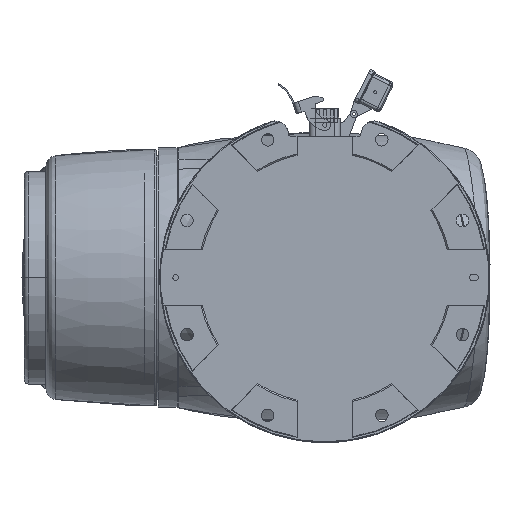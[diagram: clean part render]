
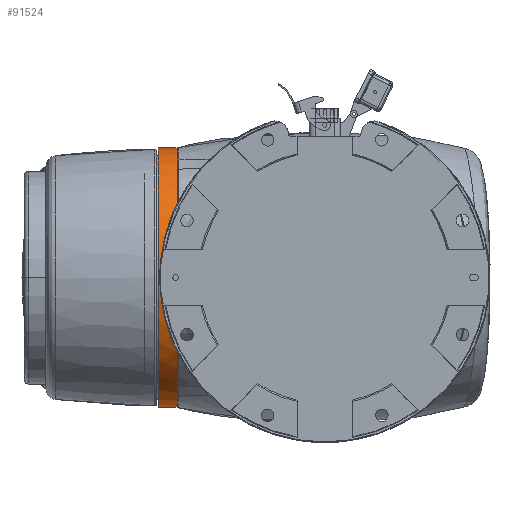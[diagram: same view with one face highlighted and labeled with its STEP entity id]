
A CAD part, front view. The second image highlights one B-rep face of the part: STEP entity #91524.
In plain terms, the highlighted cylindrical face has radius 93.5 mm (diameter 187 mm), a partial arc.
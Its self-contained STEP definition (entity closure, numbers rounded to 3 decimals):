
#3895 = EDGE_CURVE ( 'NONE', #348042, #332311, #331304, .T. ) ;
#10882 = DIRECTION ( 'NONE',  ( 0., 0., 1. ) ) ;
#12852 = CARTESIAN_POINT ( 'NONE',  ( -106.5, 0., 0. ) ) ;
#15277 = CARTESIAN_POINT ( 'NONE',  ( -106.5, 0., -93.5 ) ) ;
#24721 = ORIENTED_EDGE ( 'NONE', *, *, #67844, .F. ) ;
#51750 = CARTESIAN_POINT ( 'NONE',  ( -130., 0., 93.5 ) ) ;
#57913 = DIRECTION ( 'NONE',  ( 0., 0., 1. ) ) ;
#61537 = ORIENTED_EDGE ( 'NONE', *, *, #238762, .T. ) ;
#67844 = EDGE_CURVE ( 'NONE', #133919, #332311, #169883, .T. ) ;
#75805 = AXIS2_PLACEMENT_3D ( 'NONE', #252215, #250189, #191017 ) ;
#86830 = CYLINDRICAL_SURFACE ( 'NONE', #230422, 93.5 ) ;
#88539 = CARTESIAN_POINT ( 'NONE',  ( -106.5, 0., 0. ) ) ;
#91524 = ADVANCED_FACE ( 'NONE', ( #148068 ), #86830, .T. ) ;
#100315 = CARTESIAN_POINT ( 'NONE',  ( -120., 0., -93.5 ) ) ;
#105668 = EDGE_LOOP ( 'NONE', ( #193390, #235346, #107258, #61537, #331404, #24721 ) ) ;
#107258 = ORIENTED_EDGE ( 'NONE', *, *, #302350, .T. ) ;
#109583 = CARTESIAN_POINT ( 'NONE',  ( -130., 0., -93.5 ) ) ;
#113631 = LINE ( 'NONE', #109583, #311046 ) ;
#116080 = CARTESIAN_POINT ( 'NONE',  ( -106.5, -89.564, 26.841 ) ) ;
#127159 = AXIS2_PLACEMENT_3D ( 'NONE', #12852, #204518, #265743 ) ;
#133919 = VERTEX_POINT ( 'NONE', #100315 ) ;
#142842 = CARTESIAN_POINT ( 'NONE',  ( -120., 0., 93.5 ) ) ;
#148068 = FACE_OUTER_BOUND ( 'NONE', #105668, .T. ) ;
#159857 = CARTESIAN_POINT ( 'NONE',  ( -120., 0., 0. ) ) ;
#169883 = CIRCLE ( 'NONE', #260978, 93.5 ) ;
#178643 = CARTESIAN_POINT ( 'NONE',  ( -130., 0., 0. ) ) ;
#191017 = DIRECTION ( 'NONE',  ( 0., 0., 1. ) ) ;
#193222 = CARTESIAN_POINT ( 'NONE',  ( -106.5, -89.564, -26.842 ) ) ;
#193390 = ORIENTED_EDGE ( 'NONE', *, *, #384044, .F. ) ;
#204518 = DIRECTION ( 'NONE',  ( -1., 0., 0. ) ) ;
#204536 = CIRCLE ( 'NONE', #315186, 93.5 ) ;
#211559 = CIRCLE ( 'NONE', #127159, 93.5 ) ;
#213931 = VERTEX_POINT ( 'NONE', #193222 ) ;
#229557 = VERTEX_POINT ( 'NONE', #15277 ) ;
#230422 = AXIS2_PLACEMENT_3D ( 'NONE', #178643, #305087, #392948 ) ;
#235346 = ORIENTED_EDGE ( 'NONE', *, *, #339097, .T. ) ;
#238762 = EDGE_CURVE ( 'NONE', #290651, #348042, #204536, .T. ) ;
#239621 = CARTESIAN_POINT ( 'NONE',  ( -106.5, 0., 93.5 ) ) ;
#250189 = DIRECTION ( 'NONE',  ( -1., 0., 0. ) ) ;
#251510 = DIRECTION ( 'NONE',  ( -1., 0., 0. ) ) ;
#252215 = CARTESIAN_POINT ( 'NONE',  ( -106.5, 0., 0. ) ) ;
#260978 = AXIS2_PLACEMENT_3D ( 'NONE', #159857, #378187, #10882 ) ;
#265743 = DIRECTION ( 'NONE',  ( 0., 0., 1. ) ) ;
#290651 = VERTEX_POINT ( 'NONE', #116080 ) ;
#302350 = EDGE_CURVE ( 'NONE', #213931, #290651, #211559, .T. ) ;
#305087 = DIRECTION ( 'NONE',  ( -1., 0., 0. ) ) ;
#311046 = VECTOR ( 'NONE', #356421, 1000. ) ;
#315186 = AXIS2_PLACEMENT_3D ( 'NONE', #88539, #251510, #57913 ) ;
#327272 = DIRECTION ( 'NONE',  ( -1., 0., 0. ) ) ;
#331304 = LINE ( 'NONE', #51750, #368750 ) ;
#331404 = ORIENTED_EDGE ( 'NONE', *, *, #3895, .T. ) ;
#332311 = VERTEX_POINT ( 'NONE', #142842 ) ;
#339097 = EDGE_CURVE ( 'NONE', #229557, #213931, #375514, .T. ) ;
#348042 = VERTEX_POINT ( 'NONE', #239621 ) ;
#356421 = DIRECTION ( 'NONE',  ( -1., 0., 0. ) ) ;
#368750 = VECTOR ( 'NONE', #327272, 1000. ) ;
#375514 = CIRCLE ( 'NONE', #75805, 93.5 ) ;
#378187 = DIRECTION ( 'NONE',  ( -1., 0., 0. ) ) ;
#384044 = EDGE_CURVE ( 'NONE', #229557, #133919, #113631, .T. ) ;
#392948 = DIRECTION ( 'NONE',  ( 0., 0., 1. ) ) ;
